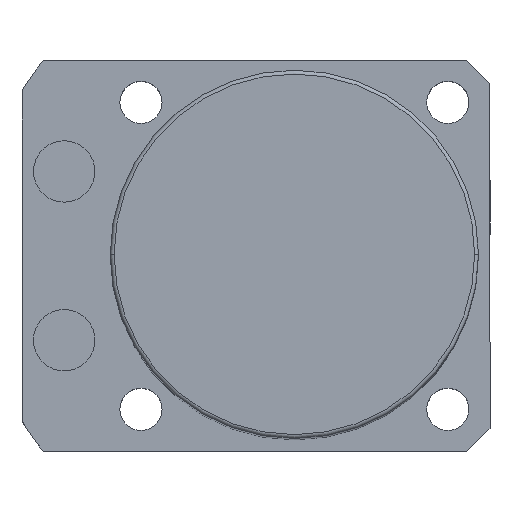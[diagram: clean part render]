
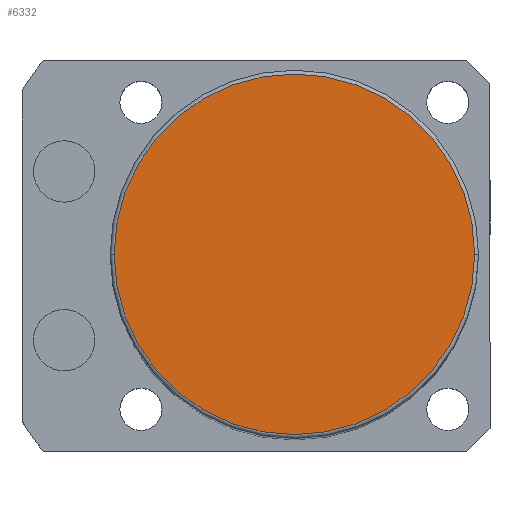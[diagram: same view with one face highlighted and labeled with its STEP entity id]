
A CAD part, top view. The second image highlights one B-rep face of the part: STEP entity #6332.
In plain terms, the highlighted planar face has unit normal (0, 0, 1).
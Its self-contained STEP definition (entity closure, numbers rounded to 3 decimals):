
#645 = DIRECTION ( 'NONE',  ( 1., 0., 0. ) ) ;
#660 = CARTESIAN_POINT ( 'NONE',  ( 23.5, 0., 126. ) ) ;
#693 = CARTESIAN_POINT ( 'NONE',  ( 0., 0., 126. ) ) ;
#1160 = DIRECTION ( 'NONE',  ( 1., 0., 0. ) ) ;
#1902 = CIRCLE ( 'NONE', #3852, 23.5 ) ;
#2041 = AXIS2_PLACEMENT_3D ( 'NONE', #2721, #3758, #4271 ) ;
#2574 = ORIENTED_EDGE ( 'NONE', *, *, #5561, .T. ) ;
#2721 = CARTESIAN_POINT ( 'NONE',  ( 0., 0., 126. ) ) ;
#2849 = CARTESIAN_POINT ( 'NONE',  ( -23.5, 0., 126. ) ) ;
#3002 = FACE_OUTER_BOUND ( 'NONE', #4665, .T. ) ;
#3523 = AXIS2_PLACEMENT_3D ( 'NONE', #693, #3667, #1160 ) ;
#3627 = DIRECTION ( 'NONE',  ( 0., 0., 1. ) ) ;
#3667 = DIRECTION ( 'NONE',  ( 0., 0., 1. ) ) ;
#3670 = CARTESIAN_POINT ( 'NONE',  ( 0., 0., 126. ) ) ;
#3758 = DIRECTION ( 'NONE',  ( 0., 0., 1. ) ) ;
#3852 = AXIS2_PLACEMENT_3D ( 'NONE', #3670, #3627, #645 ) ;
#3859 = VERTEX_POINT ( 'NONE', #660 ) ;
#4271 = DIRECTION ( 'NONE',  ( 1., 0., 0. ) ) ;
#4533 = CIRCLE ( 'NONE', #2041, 23.5 ) ;
#4665 = EDGE_LOOP ( 'NONE', ( #5644, #2574 ) ) ;
#5220 = PLANE ( 'NONE',  #3523 ) ;
#5356 = EDGE_CURVE ( 'NONE', #3859, #6003, #1902, .T. ) ;
#5561 = EDGE_CURVE ( 'NONE', #6003, #3859, #4533, .T. ) ;
#5644 = ORIENTED_EDGE ( 'NONE', *, *, #5356, .T. ) ;
#6003 = VERTEX_POINT ( 'NONE', #2849 ) ;
#6332 = ADVANCED_FACE ( 'NONE', ( #3002 ), #5220, .T. ) ;
